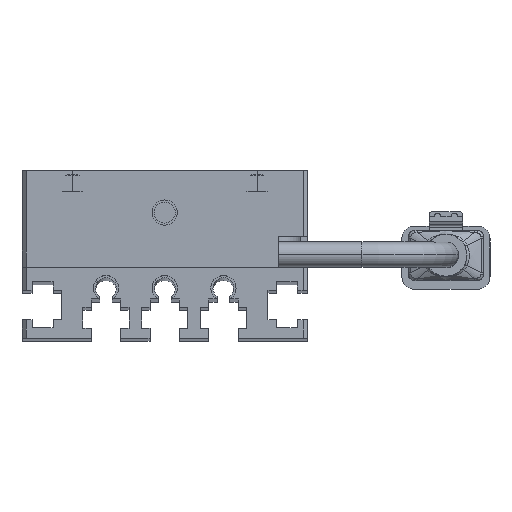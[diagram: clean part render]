
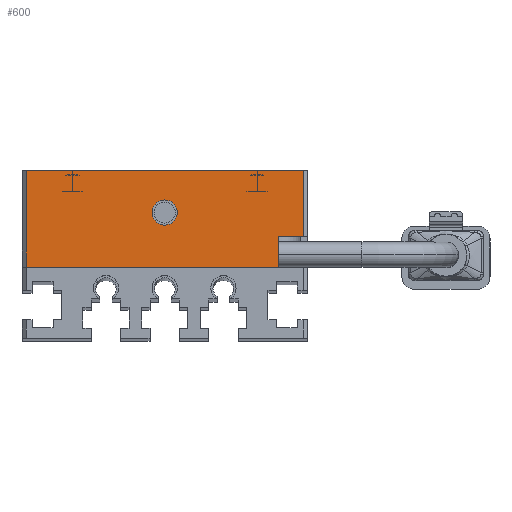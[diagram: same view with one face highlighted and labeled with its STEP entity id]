
A CAD part, top view. The second image highlights one B-rep face of the part: STEP entity #600.
In plain terms, the highlighted planar face has unit normal (0, 0, 1) as drawn and (0, 0, -1) by its records, which use the part's own axes.
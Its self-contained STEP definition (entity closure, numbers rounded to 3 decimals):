
#238 = CARTESIAN_POINT ( 'NONE',  ( -16.5, 11.5, 0. ) ) ;
#347 = CARTESIAN_POINT ( 'NONE',  ( -17., 11.5, 0. ) ) ;
#436 = VERTEX_POINT ( 'NONE', #8270 ) ;
#600 = ADVANCED_FACE ( 'NONE', ( #8946, #14387 ), #12418, .T. ) ;
#957 = VERTEX_POINT ( 'NONE', #10060 ) ;
#1016 = ORIENTED_EDGE ( 'NONE', *, *, #7620, .F. ) ;
#1777 = DIRECTION ( 'NONE',  ( 0., 0., -1. ) ) ;
#2171 = ORIENTED_EDGE ( 'NONE', *, *, #14397, .F. ) ;
#2218 = CARTESIAN_POINT ( 'NONE',  ( -13.5, 0., 0. ) ) ;
#2234 = DIRECTION ( 'NONE',  ( 1., 0., 0. ) ) ;
#2395 = CARTESIAN_POINT ( 'NONE',  ( 1.5, 6.5, 0. ) ) ;
#2646 = LINE ( 'NONE', #238, #14913 ) ;
#2651 = DIRECTION ( 'NONE',  ( 0., -1., 0. ) ) ;
#2761 = AXIS2_PLACEMENT_3D ( 'NONE', #5607, #11562, #3411 ) ;
#3060 = DIRECTION ( 'NONE',  ( -1., 0., 0. ) ) ;
#3411 = DIRECTION ( 'NONE',  ( -1., 0., 0. ) ) ;
#3425 = EDGE_CURVE ( 'NONE', #12629, #9993, #4692, .T. ) ;
#3571 = EDGE_CURVE ( 'NONE', #957, #436, #14056, .T. ) ;
#3717 = DIRECTION ( 'NONE',  ( 1., 0., 0. ) ) ;
#3840 = CARTESIAN_POINT ( 'NONE',  ( 16.5, 0., 0. ) ) ;
#4203 = CARTESIAN_POINT ( 'NONE',  ( 0., 6.5, 0. ) ) ;
#4437 = CARTESIAN_POINT ( 'NONE',  ( -16.5, 11.5, 0. ) ) ;
#4692 = CIRCLE ( 'NONE', #2761, 1.5 ) ;
#4864 = CARTESIAN_POINT ( 'NONE',  ( -13.5, 3., 0. ) ) ;
#5123 = EDGE_LOOP ( 'NONE', ( #1016, #12070, #11184, #8619, #12120, #8248 ) ) ;
#5175 = DIRECTION ( 'NONE',  ( 0., 0., -1. ) ) ;
#5607 = CARTESIAN_POINT ( 'NONE',  ( 0., 6.5, 0. ) ) ;
#5852 = DIRECTION ( 'NONE',  ( -1., 0., 0. ) ) ;
#5974 = LINE ( 'NONE', #8386, #11811 ) ;
#6113 = DIRECTION ( 'NONE',  ( 0., 1., 0. ) ) ;
#6214 = CIRCLE ( 'NONE', #11040, 1.5 ) ;
#6220 = CARTESIAN_POINT ( 'NONE',  ( 16.5, 11.5, 0. ) ) ;
#6238 = EDGE_CURVE ( 'NONE', #10960, #11696, #11368, .T. ) ;
#6424 = EDGE_CURVE ( 'NONE', #11029, #8167, #9461, .T. ) ;
#6820 = VECTOR ( 'NONE', #3717, 1000. ) ;
#6829 = ORIENTED_EDGE ( 'NONE', *, *, #3425, .F. ) ;
#7030 = CARTESIAN_POINT ( 'NONE',  ( -1.5, 6.5, 0. ) ) ;
#7181 = CARTESIAN_POINT ( 'NONE',  ( -16.5, 3.6, 0. ) ) ;
#7289 = DIRECTION ( 'NONE',  ( -1., 0., 0. ) ) ;
#7354 = LINE ( 'NONE', #4864, #7879 ) ;
#7620 = EDGE_CURVE ( 'NONE', #436, #10960, #7354, .T. ) ;
#7879 = VECTOR ( 'NONE', #11877, 1000. ) ;
#7970 = CARTESIAN_POINT ( 'NONE',  ( -17., 0., 0. ) ) ;
#8167 = VERTEX_POINT ( 'NONE', #4437 ) ;
#8248 = ORIENTED_EDGE ( 'NONE', *, *, #6238, .F. ) ;
#8270 = CARTESIAN_POINT ( 'NONE',  ( -13.5, 3.6, 0. ) ) ;
#8386 = CARTESIAN_POINT ( 'NONE',  ( 16.5, 0., 0. ) ) ;
#8619 = ORIENTED_EDGE ( 'NONE', *, *, #6424, .F. ) ;
#8946 = FACE_OUTER_BOUND ( 'NONE', #5123, .T. ) ;
#9461 = LINE ( 'NONE', #347, #13427 ) ;
#9993 = VERTEX_POINT ( 'NONE', #7030 ) ;
#10060 = CARTESIAN_POINT ( 'NONE',  ( -16.5, 3.6, 0. ) ) ;
#10078 = CARTESIAN_POINT ( 'NONE',  ( -17., 11.5, 0. ) ) ;
#10960 = VERTEX_POINT ( 'NONE', #2218 ) ;
#11029 = VERTEX_POINT ( 'NONE', #6220 ) ;
#11040 = AXIS2_PLACEMENT_3D ( 'NONE', #4203, #5175, #7289 ) ;
#11184 = ORIENTED_EDGE ( 'NONE', *, *, #11398, .T. ) ;
#11368 = LINE ( 'NONE', #7970, #13906 ) ;
#11398 = EDGE_CURVE ( 'NONE', #957, #8167, #2646, .T. ) ;
#11562 = DIRECTION ( 'NONE',  ( 0., 0., -1. ) ) ;
#11696 = VERTEX_POINT ( 'NONE', #3840 ) ;
#11811 = VECTOR ( 'NONE', #2651, 1000. ) ;
#11877 = DIRECTION ( 'NONE',  ( 0., -1., 0. ) ) ;
#12070 = ORIENTED_EDGE ( 'NONE', *, *, #3571, .F. ) ;
#12120 = ORIENTED_EDGE ( 'NONE', *, *, #13551, .T. ) ;
#12418 = PLANE ( 'NONE',  #13991 ) ;
#12629 = VERTEX_POINT ( 'NONE', #2395 ) ;
#13427 = VECTOR ( 'NONE', #5852, 1000. ) ;
#13437 = EDGE_LOOP ( 'NONE', ( #2171, #6829 ) ) ;
#13551 = EDGE_CURVE ( 'NONE', #11029, #11696, #5974, .T. ) ;
#13906 = VECTOR ( 'NONE', #2234, 1000. ) ;
#13991 = AXIS2_PLACEMENT_3D ( 'NONE', #10078, #1777, #3060 ) ;
#14056 = LINE ( 'NONE', #7181, #6820 ) ;
#14387 = FACE_BOUND ( 'NONE', #13437, .T. ) ;
#14397 = EDGE_CURVE ( 'NONE', #9993, #12629, #6214, .T. ) ;
#14913 = VECTOR ( 'NONE', #6113, 1000. ) ;
